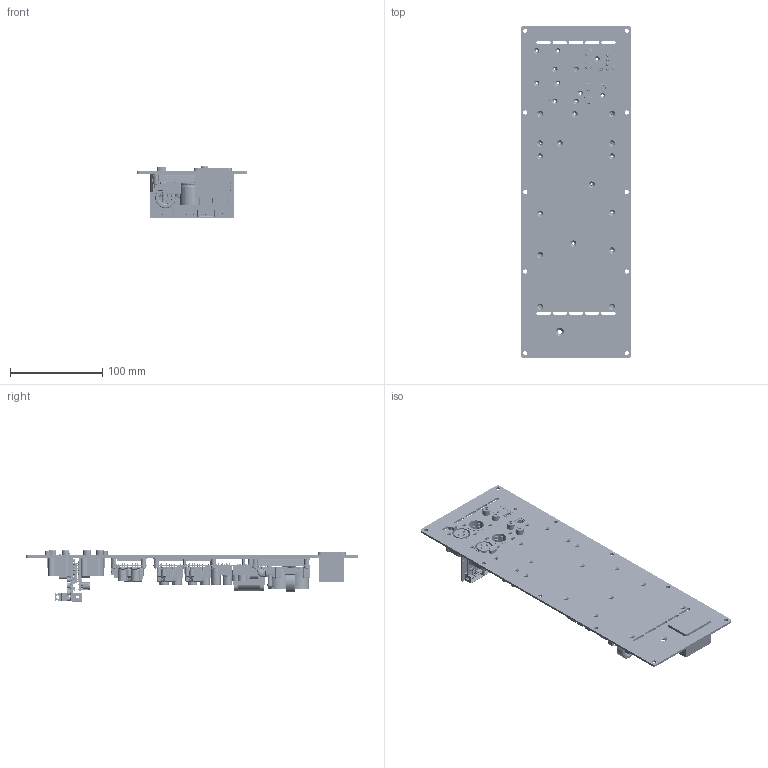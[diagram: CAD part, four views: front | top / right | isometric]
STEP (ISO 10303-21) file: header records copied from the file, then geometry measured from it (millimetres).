
FILE_DESCRIPTION (( 'STEP AP214' ), '1' );
FILE_NAME ('FusionAMP FA123 01xx.STEP', '2018-04-04T10:54:04', ( '' ), ( '' ), 'SwSTEP 2.0', 'SolidWorks 2017', '' );
FILE_SCHEMA (( 'AUTOMOTIVE_DESIGN' ));
Length unit declared in the file: millimetre
Products named in the file (7): Frontplate FA123; IEC Euro Switch; PCBA MP-DSP Digin B01; NC122MP 01xx; FusionAMP FA123 01xx; PCBA MP-DSP Main B01; NC100HF 01xx
Assembly tree (6 placements, depth 2):
  FusionAMP FA123 01xx
    PCBA MP-DSP Digin B01
    NC100HF 01xx
    NC122MP 01xx
    PCBA MP-DSP Main B01
    IEC Euro Switch
    Frontplate FA123
Bounding box: 120 x 360 x 55.8 mm (x, y, z)
Volume: 163497.4 mm3; surface area: 292830 mm2
Topology: 54 solids, 772 shells, 23712 faces, 62760 edges, 40033 vertices
Faces by surface type: plane 12659, cylinder 5992, bspline 4192, torus 500, sphere 241, cone 128
Entity records: 1116666 total; most frequent: CARTESIAN_POINT 293675, ORIENTED_EDGE 117693, DIRECTION 107738, EDGE_CURVE 61892, VERTEX_POINT 40020, LINE 38400, VECTOR 38400, AXIS2_PLACEMENT_3D 34669
